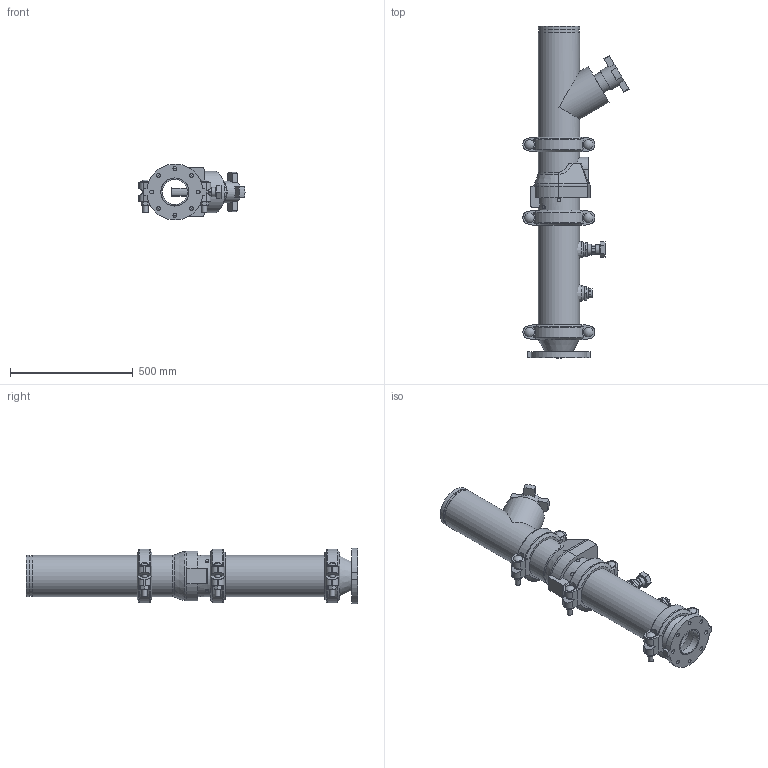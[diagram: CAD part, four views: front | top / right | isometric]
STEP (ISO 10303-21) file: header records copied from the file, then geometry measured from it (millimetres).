
FILE_DESCRIPTION(/* description */ ('VIC DVI PUMP DROP VERT S/383 (OGSxFLG) (S/924-1.25)','CAx-IF Rec.Pracs.---Representation and Presentation of Product Manufacturing Information (PMI)---4.0---2014-10-13'),/* implementation_level */ '2;1');
FILE_NAME(/* name */ 'C:\Users\Public\Documents\Victaulic.Temp\A849\Victaulic_IPS_Vertical DVI_CL 150_Series 383 (OGSxFLG)_924 (1.25)_06.0x04.0 (150x100).stp',/* time_stamp */ '2022-07-25T11:40:38+02:00',/* author */ ('Vjadhav'),/* organization */ ('Victaulic'),/* preprocessor_version */ 'ST-DEVELOPER v18',/* originating_system */ 'Autodesk Inventor 2020',/* authorisation */ '');
FILE_SCHEMA (('AP242_MANAGED_MODEL_BASED_3D_ENGINEERING_MIM_LF { 1 0 10303 442 1 1 4 }'));
Length unit declared in the file: inch
Products named in the file (9): 383_924 (1.25)-06.0x04.0; 741-04.0; 050-06.0x04.0; Pipe-06.0x04.0; 177N-06.0; 789-06.0; 779-06.0; 924-04.0x01.25; 923-04.0x0.75
Assembly tree (10 placements, depth 2):
  383_924 (1.25)-06.0x04.0
    741-04.0
    050-06.0x04.0
    177N-06.0  x3
    Pipe-06.0x04.0
    789-06.0
    779-06.0
    924-04.0x01.25
    923-04.0x0.75
Bounding box: 432.05 x 1352.55 x 227.76 mm (x, y, z)
Volume: 14418291.6 mm3; surface area: 2192918.4 mm2
Topology: 10 solids, 11 shells, 548 faces, 1445 edges, 971 vertices
Faces by surface type: plane 321, cylinder 182, cone 19, torus 18, sphere 6, bspline 2
Full cylindrical faces by diameter (mm): 13.716 x4, 15.875 x8, 21.209 x6, 21.336 x1, 26.67 x2, 37.694 x6, 38.608 x1, 42.164 x1, 45.974 x4, 48.514 x1, 55.626 x2, 79.375 x1, 88.9 x1, 102.26 x1, 110.084 x1, 114.3 x3, 154.051 x4, 155.575 x3, 163.957 x7, 168.275 x19
Entity records: 12623 total; most frequent: CARTESIAN_POINT 2571, DIRECTION 2077, ORIENTED_EDGE 1870, EDGE_CURVE 935, AXIS2_PLACEMENT_3D 793, VERTEX_POINT 635, LINE 491, VECTOR 491
